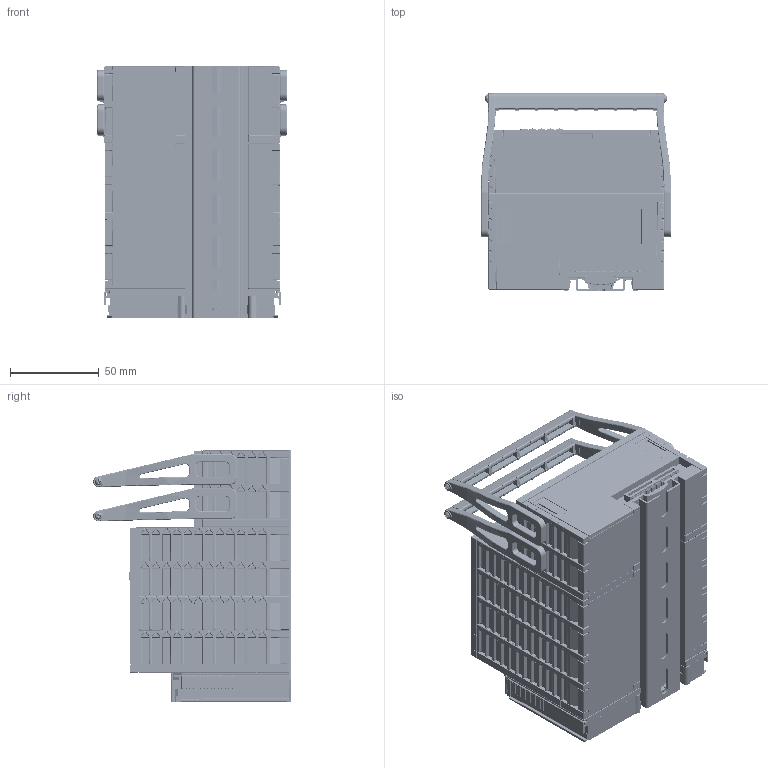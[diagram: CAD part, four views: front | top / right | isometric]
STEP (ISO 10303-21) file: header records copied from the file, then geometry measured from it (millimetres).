
FILE_DESCRIPTION(/* description */ (''),/* implementation_level */ '2;1');
FILE_NAME(/* name */ '0000036293 CX-Kabelhalterung fr Zugentlastung.stp',/* time_stamp */ '2026-03-25T11:05:23+01:00',/* author */ ('UweB'),/* organization */ (''),/* preprocessor_version */ 'ST-DEVELOPER v20.1',/* originating_system */ 'Autodesk Inventor 2026',/* authorisation */ '');
FILE_SCHEMA (('AUTOMOTIVE_DESIGN { 1 0 10303 214 3 1 1 }'));
Products named in the file (7): Baugruppe Feder; CX5330-40; 259292; 360128; 360132; 080023; 360133
Assembly tree (8 placements, depth 3):
  Baugruppe Feder
    CX5330-40
    259292  x2
      360128
      360132
      080023
      360133
Bounding box: 107 x 111.93 x 141.5 mm (x, y, z)
Volume: 1022228.8 mm3; surface area: 158423.5 mm2
Topology: 11 solids, 58 shells, 12337 faces, 31591 edges, 18985 vertices
Faces by surface type: plane 4425, cylinder 3437, bspline 2211, torus 1316, cone 556, sphere 392
Full cylindrical faces by diameter (mm): 0.054 x1, 1.724 x16, 1.952 x4, 2 x4, 2.5 x8, 3 x4, 5.5 x4
Entity records: 418719 total; most frequent: CARTESIAN_POINT 133685, ORIENTED_EDGE 58678, DIRECTION 56786, EDGE_CURVE 29339, AXIS2_PLACEMENT_3D 21216, VERTEX_POINT 17840, LINE 14354, VECTOR 14354
